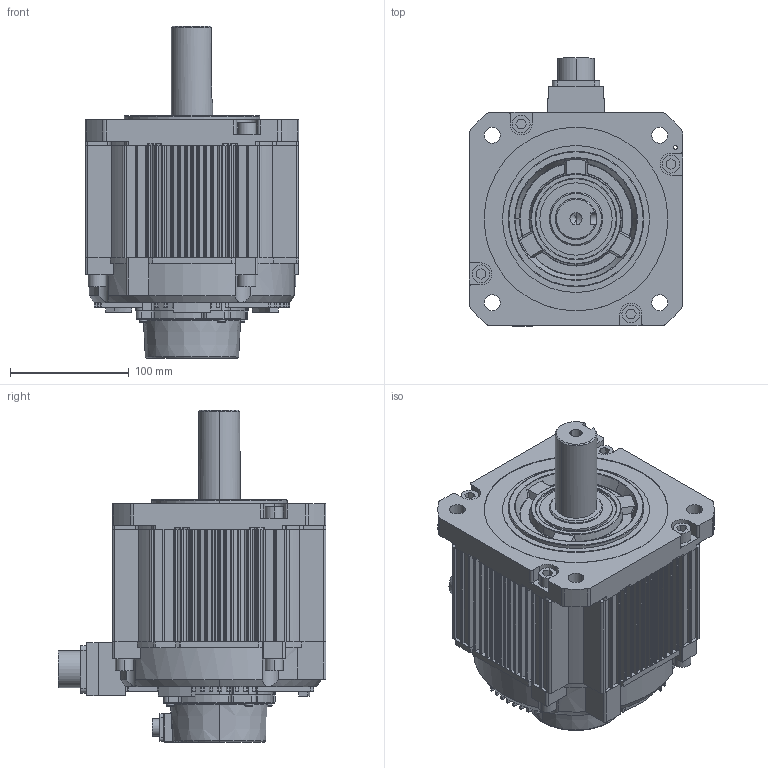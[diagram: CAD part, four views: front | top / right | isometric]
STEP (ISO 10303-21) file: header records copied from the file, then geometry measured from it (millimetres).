
FILE_DESCRIPTION (( 'STEP AP203' ), '1' );
FILE_NAME ('180A-18615.STEP', '2024-09-05T10:50:16', ( '' ), ( '' ), 'SwSTEP 2.0', 'SolidWorks 2018', '' );
FILE_SCHEMA (( 'CONFIG_CONTROL_DESIGN' ));
Length unit declared in the file: millimetre
Products named in the file (9): ヶ裔; SC-CMV1-R10P-E; 蚐猾; 綴裔; 18.6N.M儂褲 - 萵掛 (2); CMS3102A22-22P-Z; 橈勤硉晤鎢ん誘欶  S13E.10-01; 18.6,28.4N.M蛌粣; 180A-18615
Assembly tree (8 placements, depth 2):
  180A-18615
    18.6N.M儂褲 - 萵掛 (2)
    綴裔
    ヶ裔
    蚐猾
    18.6,28.4N.M蛌粣
    CMS3102A22-22P-Z
    SC-CMV1-R10P-E
    橈勤硉晤鎢ん誘欶  S13E.10-01
Bounding box: 180 x 226 x 280 mm (x, y, z)
Volume: 1781210.5 mm3; surface area: 534911 mm2
Topology: 8 solids, 12 shells, 1784 faces, 4879 edges, 3173 vertices
Faces by surface type: plane 876, cylinder 765, torus 59, cone 58, bspline 14, sphere 12
Entity records: 58839 total; most frequent: CARTESIAN_POINT 11422, DIRECTION 10114, ORIENTED_EDGE 9654, EDGE_CURVE 4827, AXIS2_PLACEMENT_3D 3635, VERTEX_POINT 3161, VECTOR 2844, LINE 2844
